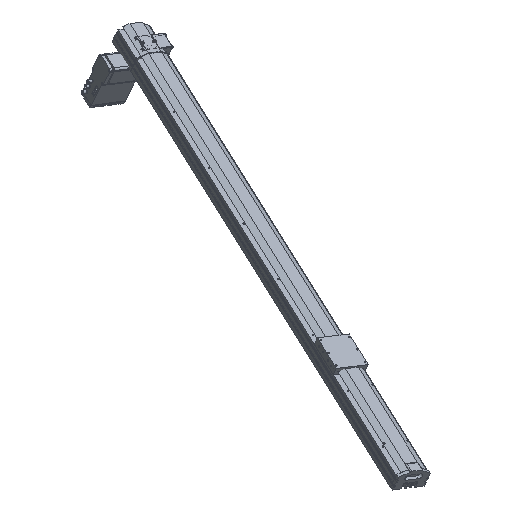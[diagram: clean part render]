
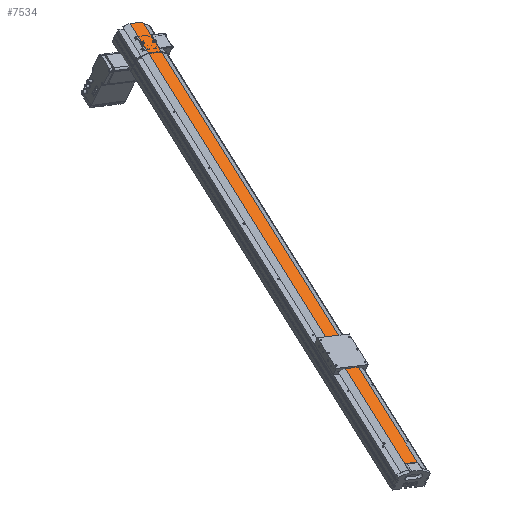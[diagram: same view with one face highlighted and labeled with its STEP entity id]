
A CAD part, top view. The second image highlights one B-rep face of the part: STEP entity #7534.
In plain terms, the highlighted planar face has unit normal (0.35, 0.687, 0.637) as drawn and (0, 1, 0) by its records, which use the part's own axes.
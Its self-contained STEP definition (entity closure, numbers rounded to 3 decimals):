
#6998 = EDGE_CURVE ( 'NONE', #7003, #6999, #12911, .T. ) ;
#6999 = VERTEX_POINT ( 'NONE', #12879 ) ;
#7003 = VERTEX_POINT ( 'NONE', #12917 ) ;
#7428 = EDGE_LOOP ( 'NONE', ( #7533, #7538, #7541, #7467, #7537 ) ) ;
#7467 = ORIENTED_EDGE ( 'NONE', *, *, #7542, .T. ) ;
#7469 = VERTEX_POINT ( 'NONE', #13804 ) ;
#7473 = VERTEX_POINT ( 'NONE', #13780 ) ;
#7474 = VERTEX_POINT ( 'NONE', #13754 ) ;
#7487 = EDGE_CURVE ( 'NONE', #6999, #7474, #13826, .T. ) ;
#7532 = EDGE_CURVE ( 'NONE', #7473, #7474, #13855, .T. ) ;
#7533 = ORIENTED_EDGE ( 'NONE', *, *, #7487, .T. ) ;
#7534 = ADVANCED_FACE ( 'NONE', ( #13904 ), #13903, .F. ) ;
#7537 = ORIENTED_EDGE ( 'NONE', *, *, #6998, .T. ) ;
#7538 = ORIENTED_EDGE ( 'NONE', *, *, #7532, .F. ) ;
#7539 = EDGE_CURVE ( 'NONE', #7469, #7473, #13844, .T. ) ;
#7541 = ORIENTED_EDGE ( 'NONE', *, *, #7539, .F. ) ;
#7542 = EDGE_CURVE ( 'NONE', #7469, #7003, #13888, .T. ) ;
#12879 = CARTESIAN_POINT ( 'NONE',  ( 20., 61.75, 0. ) ) ;
#12904 = DIRECTION ( 'NONE',  ( 0., 0., -1. ) ) ;
#12905 = VECTOR ( 'NONE', #12904, 1000. ) ;
#12910 = CARTESIAN_POINT ( 'NONE',  ( 20., 61.75, 1600. ) ) ;
#12911 = LINE ( 'NONE', #12910, #12905 ) ;
#12917 = CARTESIAN_POINT ( 'NONE',  ( 20., 61.75, 5.114 ) ) ;
#13754 = CARTESIAN_POINT ( 'NONE',  ( -20., 61.75, 0. ) ) ;
#13780 = CARTESIAN_POINT ( 'NONE',  ( -20., 61.75, 1600. ) ) ;
#13804 = CARTESIAN_POINT ( 'NONE',  ( 20., 61.75, 1600. ) ) ;
#13816 = DIRECTION ( 'NONE',  ( -1., 0., 0. ) ) ;
#13817 = VECTOR ( 'NONE', #13816, 1000. ) ;
#13826 = LINE ( 'NONE', #13839, #13817 ) ;
#13839 = CARTESIAN_POINT ( 'NONE',  ( 20., 61.75, 0. ) ) ;
#13842 = AXIS2_PLACEMENT_3D ( 'NONE', #13848, #13898, #13897 ) ;
#13843 = CARTESIAN_POINT ( 'NONE',  ( 20., 61.75, 1600. ) ) ;
#13844 = LINE ( 'NONE', #13843, #13895 ) ;
#13848 = CARTESIAN_POINT ( 'NONE',  ( 20., 61.75, 1600. ) ) ;
#13854 = CARTESIAN_POINT ( 'NONE',  ( -20., 61.75, 1600. ) ) ;
#13855 = LINE ( 'NONE', #13854, #13902 ) ;
#13885 = DIRECTION ( 'NONE',  ( 0., 0., -1. ) ) ;
#13886 = VECTOR ( 'NONE', #13885, 1000. ) ;
#13887 = CARTESIAN_POINT ( 'NONE',  ( 20., 61.75, 1600. ) ) ;
#13888 = LINE ( 'NONE', #13887, #13886 ) ;
#13894 = DIRECTION ( 'NONE',  ( -1., 0., 0. ) ) ;
#13895 = VECTOR ( 'NONE', #13894, 1000. ) ;
#13897 = DIRECTION ( 'NONE',  ( 0., 0., -1. ) ) ;
#13898 = DIRECTION ( 'NONE',  ( 0., -1., 0. ) ) ;
#13901 = DIRECTION ( 'NONE',  ( 0., 0., -1. ) ) ;
#13902 = VECTOR ( 'NONE', #13901, 1000. ) ;
#13903 = PLANE ( 'NONE',  #13842 ) ;
#13904 = FACE_OUTER_BOUND ( 'NONE', #7428, .T. ) ;
